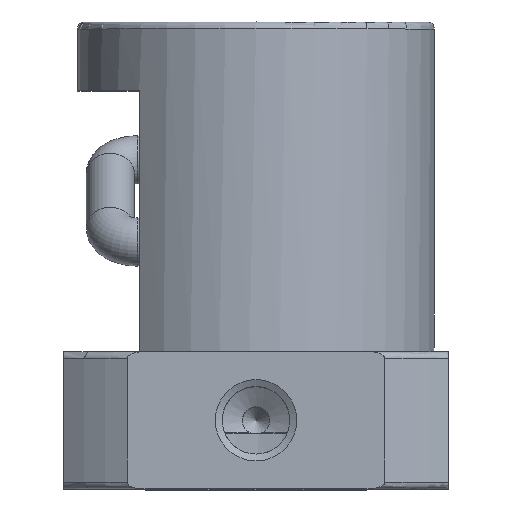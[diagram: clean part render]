
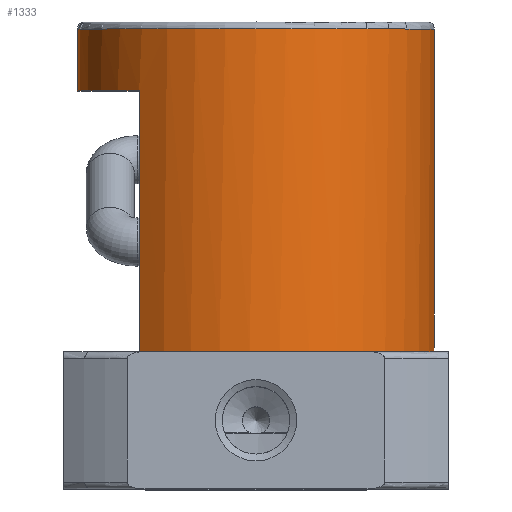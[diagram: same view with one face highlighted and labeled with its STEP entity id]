
A CAD part, top view. The second image highlights one B-rep face of the part: STEP entity #1333.
In plain terms, the highlighted cylindrical face has radius 13 mm (diameter 26 mm), a full revolution.
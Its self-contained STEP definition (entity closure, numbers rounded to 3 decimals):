
#74=CYLINDRICAL_SURFACE('',#1404,13.);
#107=CIRCLE('',#1405,13.);
#108=CIRCLE('',#1406,13.);
#109=CIRCLE('',#1407,13.);
#173=ORIENTED_EDGE('',*,*,#409,.T.);
#174=ORIENTED_EDGE('',*,*,#410,.F.);
#175=ORIENTED_EDGE('',*,*,#404,.T.);
#176=ORIENTED_EDGE('',*,*,#411,.T.);
#177=ORIENTED_EDGE('',*,*,#402,.T.);
#402=EDGE_CURVE('',#521,#519,#614,.F.);
#404=EDGE_CURVE('',#520,#522,#616,.T.);
#409=EDGE_CURVE('',#527,#527,#107,.F.);
#410=EDGE_CURVE('',#520,#519,#108,.T.);
#411=EDGE_CURVE('',#522,#521,#109,.F.);
#519=VERTEX_POINT('',#1830);
#520=VERTEX_POINT('',#1831);
#521=VERTEX_POINT('',#1833);
#522=VERTEX_POINT('',#1835);
#527=VERTEX_POINT('',#1847);
#614=LINE('',#1832,#638);
#616=LINE('',#1836,#640);
#638=VECTOR('',#1538,1000.);
#640=VECTOR('',#1540,1000.);
#666=EDGE_LOOP('',(#173));
#667=EDGE_LOOP('',(#174,#175,#176,#177));
#774=FACE_BOUND('',#666,.T.);
#775=FACE_BOUND('',#667,.T.);
#1333=ADVANCED_FACE('',(#774,#775),#74,.T.);
#1404=AXIS2_PLACEMENT_3D('',#1845,#1549,#1550);
#1405=AXIS2_PLACEMENT_3D('',#1846,#1551,#1552);
#1406=AXIS2_PLACEMENT_3D('',#1848,#1553,#1554);
#1407=AXIS2_PLACEMENT_3D('',#1849,#1555,#1556);
#1538=DIRECTION('',(0.,-1.,0.));
#1540=DIRECTION('',(0.,-1.,0.));
#1549=DIRECTION('',(0.,-1.,0.));
#1550=DIRECTION('',(0.,0.,-1.));
#1551=DIRECTION('',(0.,1.,0.));
#1552=DIRECTION('',(0.,0.,1.));
#1553=DIRECTION('',(0.,-1.,0.));
#1554=DIRECTION('',(0.,0.,-1.));
#1555=DIRECTION('',(0.,-1.,0.));
#1556=DIRECTION('',(0.,0.,-1.));
#1830=CARTESIAN_POINT('',(-8.5,29.,-9.836));
#1831=CARTESIAN_POINT('',(-8.5,29.,9.836));
#1832=CARTESIAN_POINT('',(-8.5,34.,-9.836));
#1833=CARTESIAN_POINT('',(-8.5,10.,-9.836));
#1835=CARTESIAN_POINT('',(-8.5,10.,9.836));
#1836=CARTESIAN_POINT('',(-8.5,34.,9.836));
#1845=CARTESIAN_POINT('',(0.,34.,0.));
#1846=CARTESIAN_POINT('',(0.,33.5,0.));
#1847=CARTESIAN_POINT('',(0.,33.5,13.));
#1848=CARTESIAN_POINT('',(0.,29.,0.));
#1849=CARTESIAN_POINT('',(0.,10.,0.));
